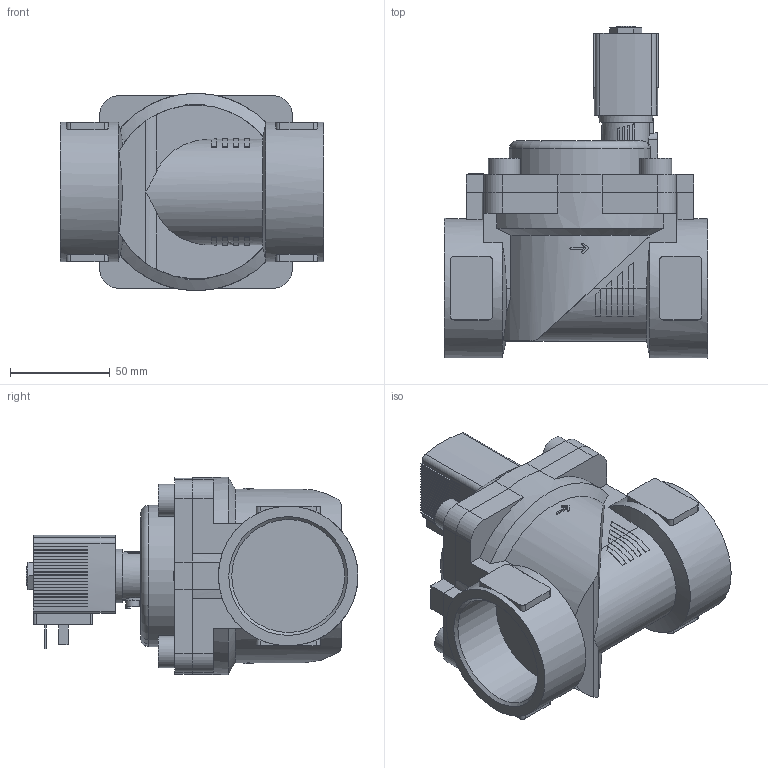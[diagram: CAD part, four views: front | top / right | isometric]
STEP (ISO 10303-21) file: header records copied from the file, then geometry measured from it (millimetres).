
FILE_DESCRIPTION(/* description */ ('STEP AP214'),/* implementation_level */ '2;1');
FILE_NAME(/* name */ '6281-277942-2_2-Way_Solenoid_Valve__Servo-assisted__General_Purpose',/* time_stamp */ '2024-07-02T11:41:35+02:00',/* author */ ('License CC BY-ND 4.0'),/* organization */ ('CADENAS'),/* preprocessor_version */ 'ST-DEVELOPER v19.3',/* originating_system */ 'PARTsolutions',/* authorisation */ ' ');
FILE_SCHEMA (('AUTOMOTIVE_DESIGN {1 0 10303 214 3 1 1}'));
Length unit declared in the file: millimetre
Products named in the file (4): 6281-277942-2/2-Way Solenoid Valve, Servo-assisted, General Purpose; 5281ev401MS2/2-Wege-Magnetventil mit Servomembran-Deckel 99 ; 6213-40G2MS-Gehaeuse-; AC10ex-5OO-Plan-Coil
Assembly tree (3 placements, depth 2):
  6281-277942-2/2-Way Solenoid Valve, Servo-assisted, General Purpose
    5281ev401MS2/2-Wege-Magnetventil mit Servomembran-Deckel 99 
    6213-40G2MS-Gehaeuse-
    AC10ex-5OO-Plan-Coil
Bounding box: 132 x 166.5 x 99 mm (x, y, z)
Volume: 729542.5 mm3; surface area: 103613.6 mm2
Topology: 3 solids, 3 shells, 562 faces, 1575 edges, 1045 vertices
Faces by surface type: plane 450, cylinder 98, cone 13, torus 1
Full cylindrical faces by diameter (mm): 2.013 x1, 6.8 x1, 9.74 x1, 16 x4, 27 x1, 56.656 x2, 70 x2
Entity records: 20771 total; most frequent: CARTESIAN_POINT 3418, ORIENTED_EDGE 3100, DIRECTION 2936, EDGE_CURVE 1550, LINE 1160, VECTOR 1160, VERTEX_POINT 1036, AXIS2_PLACEMENT_3D 888
